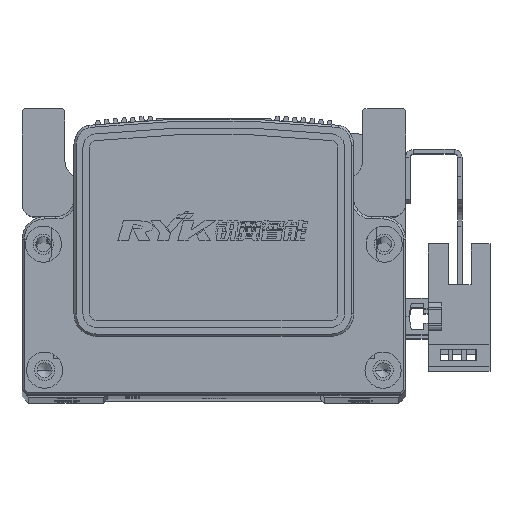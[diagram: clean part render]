
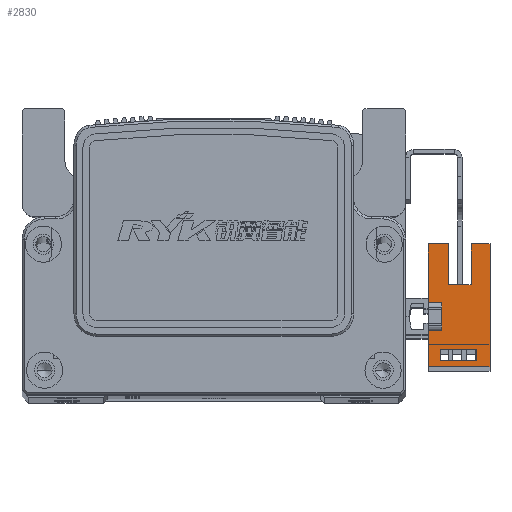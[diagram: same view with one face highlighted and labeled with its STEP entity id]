
A CAD part, top view. The second image highlights one B-rep face of the part: STEP entity #2830.
In plain terms, the highlighted planar face has unit normal (0, 0, 1) as drawn and (1, 0, 0) by its records, which use the part's own axes.
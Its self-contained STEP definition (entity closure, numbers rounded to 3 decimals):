
#1281 = EDGE_LOOP ( 'NONE', ( #2676, #2647, #2625, #2773, #2661, #2747, #2601, #2757, #2645, #2713, #2789, #2771 ) ) ;
#2601 = ORIENTED_EDGE ( 'NONE', *, *, #12265, .F. ) ;
#2625 = ORIENTED_EDGE ( 'NONE', *, *, #12174, .T. ) ;
#2645 = ORIENTED_EDGE ( 'NONE', *, *, #12021, .F. ) ;
#2647 = ORIENTED_EDGE ( 'NONE', *, *, #12077, .T. ) ;
#2661 = ORIENTED_EDGE ( 'NONE', *, *, #12051, .F. ) ;
#2676 = ORIENTED_EDGE ( 'NONE', *, *, #12087, .T. ) ;
#2710 = ORIENTED_EDGE ( 'NONE', *, *, #12291, .F. ) ;
#2713 = ORIENTED_EDGE ( 'NONE', *, *, #12172, .F. ) ;
#2723 = ORIENTED_EDGE ( 'NONE', *, *, #12117, .F. ) ;
#2747 = ORIENTED_EDGE ( 'NONE', *, *, #12233, .F. ) ;
#2757 = ORIENTED_EDGE ( 'NONE', *, *, #12220, .F. ) ;
#2767 = ORIENTED_EDGE ( 'NONE', *, *, #12181, .F. ) ;
#2771 = ORIENTED_EDGE ( 'NONE', *, *, #12161, .T. ) ;
#2773 = ORIENTED_EDGE ( 'NONE', *, *, #12159, .T. ) ;
#2789 = ORIENTED_EDGE ( 'NONE', *, *, #12085, .T. ) ;
#2791 = ORIENTED_EDGE ( 'NONE', *, *, #12123, .F. ) ;
#2830 = ADVANCED_FACE ( 'NONE', ( #19271, #19319 ), #3162, .T. ) ;
#3162 = PLANE ( 'NONE',  #27476 ) ;
#3165 = DIRECTION ( 'NONE',  ( 1., 0., 0. ) ) ;
#3168 = DIRECTION ( 'NONE',  ( 0., 1., 0. ) ) ;
#3171 = CARTESIAN_POINT ( 'NONE',  ( 3.2, 16.1, -10.7 ) ) ;
#7512 = LINE ( 'NONE', #36093, #7515 ) ;
#7515 = VECTOR ( 'NONE', #36104, 1000. ) ;
#7658 = VECTOR ( 'NONE', #34463, 1000. ) ;
#7733 = VECTOR ( 'NONE', #36077, 1000. ) ;
#7795 = LINE ( 'NONE', #36033, #7733 ) ;
#7832 = LINE ( 'NONE', #36050, #7864 ) ;
#7847 = LINE ( 'NONE', #36046, #7850 ) ;
#7850 = VECTOR ( 'NONE', #36070, 1000. ) ;
#7864 = VECTOR ( 'NONE', #36068, 1000. ) ;
#8032 = LINE ( 'NONE', #34481, #8078 ) ;
#8049 = LINE ( 'NONE', #34215, #8056 ) ;
#8056 = VECTOR ( 'NONE', #34251, 1000. ) ;
#8072 = VECTOR ( 'NONE', #34246, 1000. ) ;
#8078 = VECTOR ( 'NONE', #34418, 1000. ) ;
#8091 = LINE ( 'NONE', #34223, #8072 ) ;
#8128 = LINE ( 'NONE', #34359, #8129 ) ;
#8129 = VECTOR ( 'NONE', #34404, 1000. ) ;
#8133 = LINE ( 'NONE', #34389, #8135 ) ;
#8135 = VECTOR ( 'NONE', #34403, 1000. ) ;
#8154 = LINE ( 'NONE', #36415, #8166 ) ;
#8166 = VECTOR ( 'NONE', #36417, 1000. ) ;
#8176 = LINE ( 'NONE', #34469, #7658 ) ;
#12021 = EDGE_CURVE ( 'NONE', #35404, #35481, #8154, .T. ) ;
#12051 = EDGE_CURVE ( 'NONE', #35388, #35367, #7512, .T. ) ;
#12077 = EDGE_CURVE ( 'NONE', #34678, #35161, #7795, .T. ) ;
#12085 = EDGE_CURVE ( 'NONE', #34991, #35320, #7847, .T. ) ;
#12087 = EDGE_CURVE ( 'NONE', #35345, #34678, #7832, .T. ) ;
#12117 = EDGE_CURVE ( 'NONE', #35215, #34659, #8049, .T. ) ;
#12123 = EDGE_CURVE ( 'NONE', #35209, #35387, #8091, .T. ) ;
#12159 = EDGE_CURVE ( 'NONE', #35282, #35367, #8133, .T. ) ;
#12161 = EDGE_CURVE ( 'NONE', #35320, #35345, #8128, .T. ) ;
#12172 = EDGE_CURVE ( 'NONE', #34991, #35404, #8176, .T. ) ;
#12174 = EDGE_CURVE ( 'NONE', #35161, #35282, #8032, .T. ) ;
#12181 = EDGE_CURVE ( 'NONE', #35387, #35215, #37648, .T. ) ;
#12220 = EDGE_CURVE ( 'NONE', #35481, #35385, #37700, .T. ) ;
#12233 = EDGE_CURVE ( 'NONE', #35428, #35388, #37722, .T. ) ;
#12265 = EDGE_CURVE ( 'NONE', #35385, #35428, #37764, .T. ) ;
#12291 = EDGE_CURVE ( 'NONE', #34659, #35209, #37805, .T. ) ;
#16491 = CARTESIAN_POINT ( 'NONE',  ( 3.2, -11.1, -10.7 ) ) ;
#16771 = CARTESIAN_POINT ( 'NONE',  ( 3.2, 7.1, -1.5 ) ) ;
#16870 = CARTESIAN_POINT ( 'NONE',  ( 3.2, -9.83, 0.3 ) ) ;
#16951 = CARTESIAN_POINT ( 'NONE',  ( 3.2, -7.33, -7.7 ) ) ;
#17084 = CARTESIAN_POINT ( 'NONE',  ( 3.2, 16.1, -10.7 ) ) ;
#17086 = CARTESIAN_POINT ( 'NONE',  ( 3.2, 16.1, -1.5 ) ) ;
#17305 = CARTESIAN_POINT ( 'NONE',  ( 3.2, -3.1, 0. ) ) ;
#17319 = CARTESIAN_POINT ( 'NONE',  ( 3.2, -9.83, -7.7 ) ) ;
#17331 = CARTESIAN_POINT ( 'NONE',  ( 3.2, 16.1, 3. ) ) ;
#17350 = CARTESIAN_POINT ( 'NONE',  ( 3.2, 16.1, -6.5 ) ) ;
#17358 = CARTESIAN_POINT ( 'NONE',  ( 3.2, -11.1, 3. ) ) ;
#17407 = CARTESIAN_POINT ( 'NONE',  ( 3.2, 3.1, 0. ) ) ;
#17428 = CARTESIAN_POINT ( 'NONE',  ( 3.2, 3.1, 3. ) ) ;
#17600 = CARTESIAN_POINT ( 'NONE',  ( 3.2, -3.1, 3. ) ) ;
#19271 = FACE_OUTER_BOUND ( 'NONE', #1281, .T. ) ;
#19319 = FACE_BOUND ( 'NONE', #39424, .T. ) ;
#27476 = AXIS2_PLACEMENT_3D ( 'NONE', #3171, #3165, #3168 ) ;
#33267 = CARTESIAN_POINT ( 'NONE',  ( 3.2, -7.33, 0.3 ) ) ;
#33280 = CARTESIAN_POINT ( 'NONE',  ( 3.2, 7.1, -6.5 ) ) ;
#34215 = CARTESIAN_POINT ( 'NONE',  ( 3.2, -7.33, -10.7 ) ) ;
#34223 = CARTESIAN_POINT ( 'NONE',  ( 3.2, -9.83, -10.7 ) ) ;
#34246 = DIRECTION ( 'NONE',  ( 0., 0., -1. ) ) ;
#34251 = DIRECTION ( 'NONE',  ( 0., 0., 1. ) ) ;
#34359 = CARTESIAN_POINT ( 'NONE',  ( 3.2, 16.1, -10.7 ) ) ;
#34389 = CARTESIAN_POINT ( 'NONE',  ( 3.2, 16.1, -10.7 ) ) ;
#34403 = DIRECTION ( 'NONE',  ( 0., 0., 1. ) ) ;
#34404 = DIRECTION ( 'NONE',  ( 0., 0., 1. ) ) ;
#34418 = DIRECTION ( 'NONE',  ( 0., 1., 0. ) ) ;
#34463 = DIRECTION ( 'NONE',  ( 0., 0., 1. ) ) ;
#34469 = CARTESIAN_POINT ( 'NONE',  ( 3.2, -11.1, 3. ) ) ;
#34471 = CARTESIAN_POINT ( 'NONE',  ( 3.2, 16.1, -7.7 ) ) ;
#34479 = DIRECTION ( 'NONE',  ( 0., 1., 0. ) ) ;
#34481 = CARTESIAN_POINT ( 'NONE',  ( 3.2, 25.1, -1.5 ) ) ;
#34588 = DIRECTION ( 'NONE',  ( 0., 0., -1. ) ) ;
#34659 = VERTEX_POINT ( 'NONE', #33267 ) ;
#34662 = CARTESIAN_POINT ( 'NONE',  ( 3.2, -3.1, 3. ) ) ;
#34678 = VERTEX_POINT ( 'NONE', #33280 ) ;
#34689 = DIRECTION ( 'NONE',  ( 0., 0., 1. ) ) ;
#34692 = CARTESIAN_POINT ( 'NONE',  ( 3.2, 3.1, 3. ) ) ;
#34794 = DIRECTION ( 'NONE',  ( 0., 1., 0. ) ) ;
#34795 = CARTESIAN_POINT ( 'NONE',  ( 3.2, 0., 0. ) ) ;
#34829 = DIRECTION ( 'NONE',  ( 0., -1., 0. ) ) ;
#34845 = CARTESIAN_POINT ( 'NONE',  ( 3.2, 16.1, 0.3 ) ) ;
#34991 = VERTEX_POINT ( 'NONE', #16491 ) ;
#35161 = VERTEX_POINT ( 'NONE', #16771 ) ;
#35209 = VERTEX_POINT ( 'NONE', #16870 ) ;
#35215 = VERTEX_POINT ( 'NONE', #16951 ) ;
#35282 = VERTEX_POINT ( 'NONE', #17086 ) ;
#35320 = VERTEX_POINT ( 'NONE', #17084 ) ;
#35345 = VERTEX_POINT ( 'NONE', #17350 ) ;
#35367 = VERTEX_POINT ( 'NONE', #17331 ) ;
#35385 = VERTEX_POINT ( 'NONE', #17305 ) ;
#35387 = VERTEX_POINT ( 'NONE', #17319 ) ;
#35388 = VERTEX_POINT ( 'NONE', #17428 ) ;
#35404 = VERTEX_POINT ( 'NONE', #17358 ) ;
#35428 = VERTEX_POINT ( 'NONE', #17407 ) ;
#35481 = VERTEX_POINT ( 'NONE', #17600 ) ;
#36033 = CARTESIAN_POINT ( 'NONE',  ( 3.2, 7.1, -6.5 ) ) ;
#36046 = CARTESIAN_POINT ( 'NONE',  ( 3.2, 16.1, -10.7 ) ) ;
#36050 = CARTESIAN_POINT ( 'NONE',  ( 3.2, 25.1, -6.5 ) ) ;
#36068 = DIRECTION ( 'NONE',  ( 0., -1., 0. ) ) ;
#36070 = DIRECTION ( 'NONE',  ( 0., 1., 0. ) ) ;
#36077 = DIRECTION ( 'NONE',  ( 0., 0., 1. ) ) ;
#36093 = CARTESIAN_POINT ( 'NONE',  ( 3.2, 16.1, 3. ) ) ;
#36104 = DIRECTION ( 'NONE',  ( 0., 1., 0. ) ) ;
#36415 = CARTESIAN_POINT ( 'NONE',  ( 3.2, 16.1, 3. ) ) ;
#36417 = DIRECTION ( 'NONE',  ( 0., 1., 0. ) ) ;
#37648 = LINE ( 'NONE', #34471, #37654 ) ;
#37654 = VECTOR ( 'NONE', #34479, 1000. ) ;
#37698 = VECTOR ( 'NONE', #34689, 1000. ) ;
#37700 = LINE ( 'NONE', #34662, #37718 ) ;
#37718 = VECTOR ( 'NONE', #34588, 1000. ) ;
#37722 = LINE ( 'NONE', #34692, #37698 ) ;
#37764 = LINE ( 'NONE', #34795, #37773 ) ;
#37773 = VECTOR ( 'NONE', #34794, 1000. ) ;
#37794 = VECTOR ( 'NONE', #34829, 1000. ) ;
#37805 = LINE ( 'NONE', #34845, #37794 ) ;
#39424 = EDGE_LOOP ( 'NONE', ( #2710, #2723, #2767, #2791 ) ) ;
